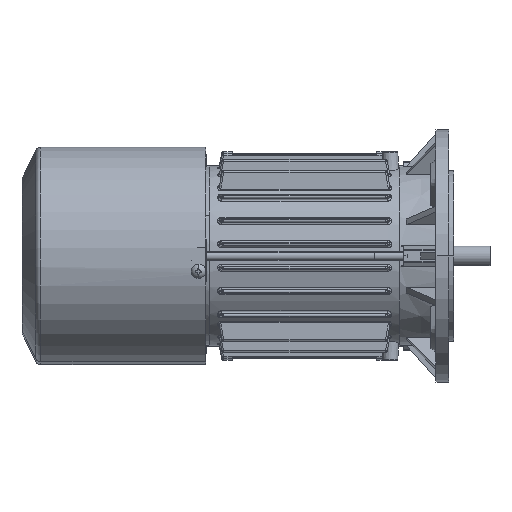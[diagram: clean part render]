
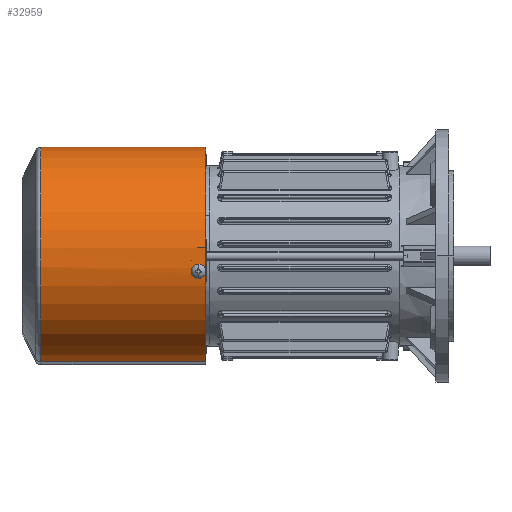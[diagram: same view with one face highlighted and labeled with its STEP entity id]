
A CAD part, front view. The second image highlights one B-rep face of the part: STEP entity #32959.
In plain terms, the highlighted cylindrical face has radius 60.5 mm (diameter 121 mm), a partial arc.
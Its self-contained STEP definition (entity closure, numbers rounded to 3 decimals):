
#1072 = VERTEX_POINT ( 'NONE', #50111 ) ;
#1190 = CARTESIAN_POINT ( 'NONE',  ( 24.139, 99.229, 55.476 ) ) ;
#1548 = CARTESIAN_POINT ( 'NONE',  ( 21.84, 99.798, 56.42 ) ) ;
#2237 = DIRECTION ( 'NONE',  ( 0., 1., 0. ) ) ;
#3312 = ORIENTED_EDGE ( 'NONE', *, *, #19446, .T. ) ;
#4991 = CARTESIAN_POINT ( 'NONE',  ( 21.181, 96.781, 56.671 ) ) ;
#5364 = CARTESIAN_POINT ( 'NONE',  ( 23.883, 96.492, 55.587 ) ) ;
#5387 = EDGE_LOOP ( 'NONE', ( #3312, #17064, #90010, #59254 ) ) ;
#6795 = DIRECTION ( 'NONE',  ( 0., 1., 0. ) ) ;
#9701 = CARTESIAN_POINT ( 'NONE',  ( 23.791, 99.59, 55.626 ) ) ;
#10005 = B_SPLINE_CURVE_WITH_KNOTS ( 'NONE', 3,
 ( #34656, #84965, #101827, #51590, #1190, #59978, #9701, #68472, #18135, #76926, #26561, #85348, #35009, #93743, #43484, #102178, #51931, #1548, #60327, #10074, #68820, #18506, #77280, #26915, #85709, #35370, #94097, #43846 ),
 .UNSPECIFIED., .F., .F.,
 ( 4, 2, 2, 2, 2, 2, 2, 2, 2, 2, 2, 2, 2, 4 ),
 ( 0.006, 0.007, 0.008, 0.008, 0.009, 0.009, 0.009, 0.01, 0.01, 0.011, 0.011, 0.011, 0.012, 0.013 ),
 .UNSPECIFIED. ) ;
#10074 = CARTESIAN_POINT ( 'NONE',  ( 21.53, 99.592, 56.54 ) ) ;
#13368 = AXIS2_PLACEMENT_3D ( 'NONE', #40040, #98788, #48508 ) ;
#13498 = CARTESIAN_POINT ( 'NONE',  ( 21.519, 96.401, 56.544 ) ) ;
#13854 = CARTESIAN_POINT ( 'NONE',  ( 24.13, 96.78, 55.48 ) ) ;
#13904 = CYLINDRICAL_SURFACE ( 'NONE', #68554, 60.5 ) ;
#15174 = VERTEX_POINT ( 'NONE', #76647 ) ;
#16538 = FACE_BOUND ( 'NONE', #49918, .T. ) ;
#17064 = ORIENTED_EDGE ( 'NONE', *, *, #20713, .T. ) ;
#18135 = CARTESIAN_POINT ( 'NONE',  ( 23.485, 99.797, 55.756 ) ) ;
#18506 = CARTESIAN_POINT ( 'NONE',  ( 21.261, 99.323, 56.641 ) ) ;
#18830 = CARTESIAN_POINT ( 'NONE',  ( 60.5, 139.861, 0. ) ) ;
#19446 = EDGE_CURVE ( 'NONE', #96104, #29796, #81660, .T. ) ;
#20713 = EDGE_CURVE ( 'NONE', #29796, #1072, #93174, .T. ) ;
#21543 = DIRECTION ( 'NONE',  ( -1., 0., 0. ) ) ;
#21900 = CARTESIAN_POINT ( 'NONE',  ( 22.176, 96.053, 56.29 ) ) ;
#22266 = CARTESIAN_POINT ( 'NONE',  ( 24.32, 97.114, 55.396 ) ) ;
#24404 = EDGE_CURVE ( 'NONE', #43796, #1072, #75789, .T. ) ;
#26561 = CARTESIAN_POINT ( 'NONE',  ( 23.144, 99.936, 55.898 ) ) ;
#26915 = CARTESIAN_POINT ( 'NONE',  ( 21.046, 99.004, 56.721 ) ) ;
#27129 = VERTEX_POINT ( 'NONE', #71554 ) ;
#28669 = EDGE_CURVE ( 'NONE', #96104, #43796, #76187, .T. ) ;
#29796 = VERTEX_POINT ( 'NONE', #73328 ) ;
#30345 = CARTESIAN_POINT ( 'NONE',  ( 22.784, 96., 56.046 ) ) ;
#30722 = CARTESIAN_POINT ( 'NONE',  ( 24.447, 97.481, 55.341 ) ) ;
#32959 = ADVANCED_FACE ( 'NONE', ( #16538, #41521 ), #13904, .T. ) ;
#34656 = CARTESIAN_POINT ( 'NONE',  ( 24.506, 98., 55.315 ) ) ;
#35009 = CARTESIAN_POINT ( 'NONE',  ( 22.788, 100., 56.045 ) ) ;
#35072 = CARTESIAN_POINT ( 'NONE',  ( 0., 102., 0. ) ) ;
#35370 = CARTESIAN_POINT ( 'NONE',  ( 20.847, 98.527, 56.795 ) ) ;
#37703 = CARTESIAN_POINT ( 'NONE',  ( 20.797, 98., 56.813 ) ) ;
#38424 = CARTESIAN_POINT ( 'NONE',  ( 20.809, 97.738, 56.809 ) ) ;
#38788 = CARTESIAN_POINT ( 'NONE',  ( 23.144, 96.064, 55.898 ) ) ;
#39147 = CARTESIAN_POINT ( 'NONE',  ( 24.506, 97.869, 55.315 ) ) ;
#40040 = CARTESIAN_POINT ( 'NONE',  ( 0., 10.474, 0. ) ) ;
#41521 = FACE_OUTER_BOUND ( 'NONE', #5387, .T. ) ;
#43484 = CARTESIAN_POINT ( 'NONE',  ( 22.422, 99.987, 56.192 ) ) ;
#43544 = DIRECTION ( 'NONE',  ( -1., 0., 0. ) ) ;
#43796 = VERTEX_POINT ( 'NONE', #56909 ) ;
#43846 = CARTESIAN_POINT ( 'NONE',  ( 20.797, 98., 56.813 ) ) ;
#46194 = CARTESIAN_POINT ( 'NONE',  ( 20.797, 97.868, 56.813 ) ) ;
#46894 = CARTESIAN_POINT ( 'NONE',  ( 20.893, 97.355, 56.778 ) ) ;
#47255 = CARTESIAN_POINT ( 'NONE',  ( 23.482, 96.202, 55.757 ) ) ;
#48508 = DIRECTION ( 'NONE',  ( -1., 0., 0. ) ) ;
#49918 = EDGE_LOOP ( 'NONE', ( #86210, #91181 ) ) ;
#50111 = CARTESIAN_POINT ( 'NONE',  ( 60.5, 102., 0. ) ) ;
#51590 = CARTESIAN_POINT ( 'NONE',  ( 24.275, 99.005, 55.416 ) ) ;
#51931 = CARTESIAN_POINT ( 'NONE',  ( 22.066, 99.898, 56.332 ) ) ;
#52381 = CARTESIAN_POINT ( 'NONE',  ( -60.5, 10.474, 0. ) ) ;
#55364 = CARTESIAN_POINT ( 'NONE',  ( 21.045, 96.998, 56.722 ) ) ;
#55722 = CARTESIAN_POINT ( 'NONE',  ( 0., 139.861, 0. ) ) ;
#55724 = CARTESIAN_POINT ( 'NONE',  ( 23.79, 96.409, 55.626 ) ) ;
#56909 = CARTESIAN_POINT ( 'NONE',  ( -60.5, 102., 0. ) ) ;
#59254 = ORIENTED_EDGE ( 'NONE', *, *, #28669, .F. ) ;
#59978 = CARTESIAN_POINT ( 'NONE',  ( 23.885, 99.505, 55.586 ) ) ;
#60327 = CARTESIAN_POINT ( 'NONE',  ( 21.733, 99.737, 56.462 ) ) ;
#63749 = CARTESIAN_POINT ( 'NONE',  ( 21.26, 96.678, 56.642 ) ) ;
#64125 = DIRECTION ( 'NONE',  ( 0., 1., 0. ) ) ;
#64130 = CARTESIAN_POINT ( 'NONE',  ( 24.054, 96.679, 55.513 ) ) ;
#67291 = AXIS2_PLACEMENT_3D ( 'NONE', #35072, #93807, #43544 ) ;
#68472 = CARTESIAN_POINT ( 'NONE',  ( 23.59, 99.735, 55.711 ) ) ;
#68554 = AXIS2_PLACEMENT_3D ( 'NONE', #55722, #64125, #21543 ) ;
#68820 = CARTESIAN_POINT ( 'NONE',  ( 21.434, 99.507, 56.576 ) ) ;
#70906 = VECTOR ( 'NONE', #2237, 1000. ) ;
#71554 = CARTESIAN_POINT ( 'NONE',  ( 20.797, 98., 56.813 ) ) ;
#72087 = B_SPLINE_CURVE_WITH_KNOTS ( 'NONE', 3,
 ( #37703, #46194, #38424, #97160, #46894, #105623, #55364, #4991, #63749, #13498, #72279, #21900, #80710, #30345, #89128, #38788, #97517, #47255, #105989, #55724, #5364, #64130, #13854, #72637, #22266, #81081, #30722, #89493, #39147, #97892 ),
 .UNSPECIFIED., .F., .F.,
 ( 4, 2, 2, 2, 2, 2, 2, 2, 2, 2, 2, 2, 2, 2, 4 ),
 ( 0., 0., 0.001, 0.001, 0.002, 0.002, 0.003, 0.004, 0.004, 0.004, 0.005, 0.005, 0.005, 0.006, 0.006 ),
 .UNSPECIFIED. ) ;
#72279 = CARTESIAN_POINT ( 'NONE',  ( 21.728, 96.252, 56.464 ) ) ;
#72637 = CARTESIAN_POINT ( 'NONE',  ( 24.263, 96.997, 55.422 ) ) ;
#73328 = CARTESIAN_POINT ( 'NONE',  ( 60.5, 10.474, 0. ) ) ;
#73572 = VECTOR ( 'NONE', #6795, 1000. ) ;
#74062 = CARTESIAN_POINT ( 'NONE',  ( -60.5, 139.861, 0. ) ) ;
#75789 = CIRCLE ( 'NONE', #67291, 60.5 ) ;
#76187 = LINE ( 'NONE', #74062, #73572 ) ;
#76647 = CARTESIAN_POINT ( 'NONE',  ( 24.506, 98., 55.315 ) ) ;
#76926 = CARTESIAN_POINT ( 'NONE',  ( 23.262, 99.897, 55.849 ) ) ;
#77280 = CARTESIAN_POINT ( 'NONE',  ( 21.183, 99.222, 56.67 ) ) ;
#80710 = CARTESIAN_POINT ( 'NONE',  ( 22.421, 96., 56.193 ) ) ;
#81081 = CARTESIAN_POINT ( 'NONE',  ( 24.412, 97.356, 55.356 ) ) ;
#81660 = CIRCLE ( 'NONE', #13368, 60.5 ) ;
#84965 = CARTESIAN_POINT ( 'NONE',  ( 24.506, 98.261, 55.315 ) ) ;
#85073 = EDGE_CURVE ( 'NONE', #15174, #27129, #10005, .T. ) ;
#85348 = CARTESIAN_POINT ( 'NONE',  ( 22.908, 99.987, 55.996 ) ) ;
#85709 = CARTESIAN_POINT ( 'NONE',  ( 20.988, 98.888, 56.743 ) ) ;
#86210 = ORIENTED_EDGE ( 'NONE', *, *, #87487, .F. ) ;
#87487 = EDGE_CURVE ( 'NONE', #27129, #15174, #72087, .T. ) ;
#89128 = CARTESIAN_POINT ( 'NONE',  ( 22.907, 96.013, 55.996 ) ) ;
#89493 = CARTESIAN_POINT ( 'NONE',  ( 24.494, 97.737, 55.32 ) ) ;
#90010 = ORIENTED_EDGE ( 'NONE', *, *, #24404, .F. ) ;
#91181 = ORIENTED_EDGE ( 'NONE', *, *, #85073, .F. ) ;
#93174 = LINE ( 'NONE', #18830, #70906 ) ;
#93743 = CARTESIAN_POINT ( 'NONE',  ( 22.543, 100., 56.143 ) ) ;
#93807 = DIRECTION ( 'NONE',  ( 0., 1., 0. ) ) ;
#94097 = CARTESIAN_POINT ( 'NONE',  ( 20.797, 98.264, 56.813 ) ) ;
#96104 = VERTEX_POINT ( 'NONE', #52381 ) ;
#97160 = CARTESIAN_POINT ( 'NONE',  ( 20.857, 97.482, 56.791 ) ) ;
#97517 = CARTESIAN_POINT ( 'NONE',  ( 23.259, 96.102, 55.851 ) ) ;
#97892 = CARTESIAN_POINT ( 'NONE',  ( 24.506, 98., 55.315 ) ) ;
#98788 = DIRECTION ( 'NONE',  ( 0., 1., 0. ) ) ;
#101827 = CARTESIAN_POINT ( 'NONE',  ( 24.458, 98.524, 55.336 ) ) ;
#102178 = CARTESIAN_POINT ( 'NONE',  ( 22.184, 99.937, 56.286 ) ) ;
#105623 = CARTESIAN_POINT ( 'NONE',  ( 20.987, 97.113, 56.743 ) ) ;
#105989 = CARTESIAN_POINT ( 'NONE',  ( 23.59, 96.265, 55.711 ) ) ;
